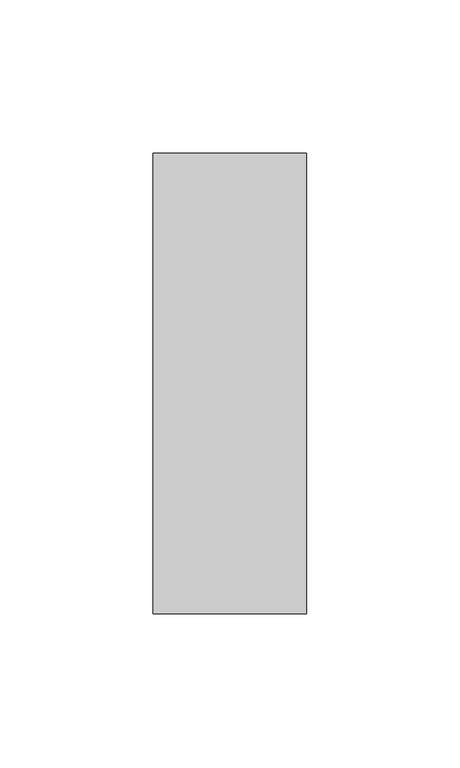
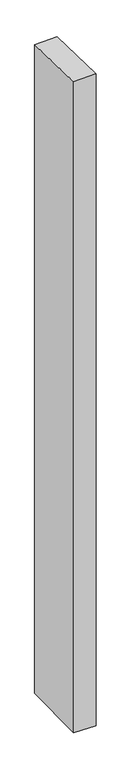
"""IFC4 building model written with IfcOpenShell, lengths in millimetres: member geometry, Прямоугольный импост : 50 x 150 мм."""

from ifc_helpers import new_model, si_unit, origin, place, context, project, spatial, faceted_brep, source, transform, mapped, element, save


def member_1a19e722(model_context):
    return source(origin(), model_context, "Body", "Brep", [
        faceted_brep([(-25.0, 75.0, -2.6905056), (25.0, 75.0, -1.5043835), (25.0, 75.0, -1525.2281024), (-25.0, 75.0, -1524.2010606), (-25.0, -75.0, 1.5043835), (-25.0, -75.0, -1525.7644126), (25.0, -75.0, 2.6905056), (25.0, -75.0, -1526.7914544)], [[[0, 1, 2, 3]], [[4, 0, 3, 5]], [[6, 4, 5, 7]], [[1, 6, 7, 2]], [[1, 0, 4, 6]], [[2, 7, 5, 3]]]),
    ])


if __name__ == "__main__":
    model = new_model("IFC4")
    model_context = context("Model", 3, world=origin())
    ifc_project = project(units=[si_unit("LENGTHUNIT", "METRE", prefix="MILLI")], contexts=[model_context])
    site = spatial("IfcSite", under=ifc_project)
    building = spatial("IfcBuilding", under=site)
    placement = place(None, origin())
    member_shape = member_1a19e722(model_context)
    element("IfcMember", 1, ObjectType="Прямоугольный импост : 50 x 150 мм", at=placement, inside=building, context=model_context, shape_type="MappedRepresentation", body=[
        mapped(member_shape, transform((0.0, 0.0, 0.0), x_axis=(1.0, 0.0, 0.0), y_axis=(0.0, 1.0, 0.0), z_axis=(0.0, 0.0, 1.0))),
    ])
    save(model, "model.ifc")
